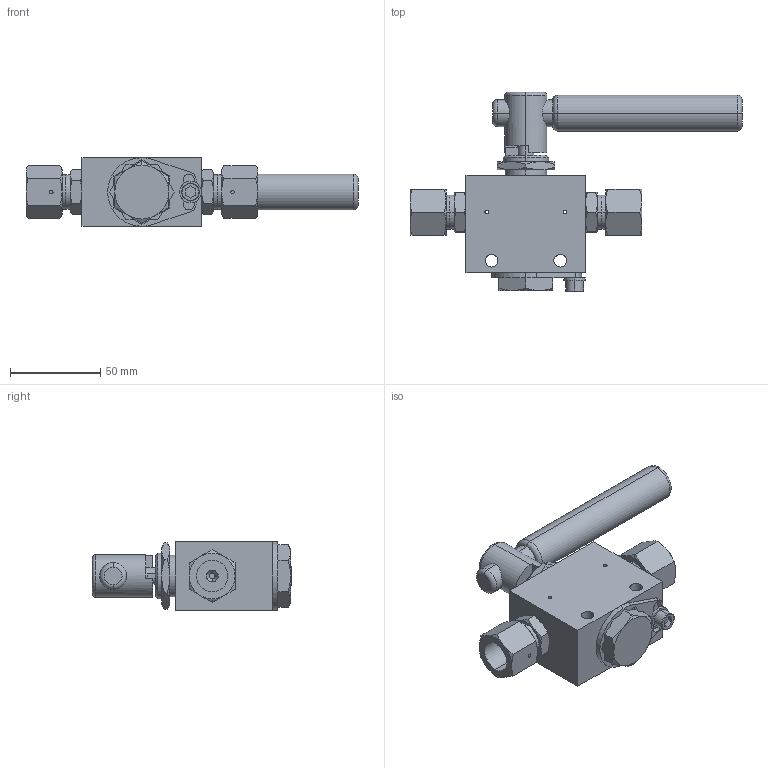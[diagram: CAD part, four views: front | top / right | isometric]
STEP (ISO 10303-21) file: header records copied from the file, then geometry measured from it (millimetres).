
FILE_DESCRIPTION (( 'STEP AP203' ), '1' );
FILE_NAME ('BV6003S06-2-(贗董蹺陛).STEP', '2025-08-27T09:20:00', ( '' ), ( '' ), 'SwSTEP 2.0', 'SolidWorks 2023', '' );
FILE_SCHEMA (( 'CONFIG_CONTROL_DESIGN' ));
Length unit declared in the file: millimetre
Products named in the file (1): BV6003S06-2-(클립추가)
Bounding box: 184.34 x 110.6 x 38 mm (x, y, z)
Volume: 220384.4 mm3; surface area: 41456.8 mm2
Topology: 1 solids, 1 shells, 276 faces, 648 edges, 390 vertices
Faces by surface type: plane 109, cone 94, cylinder 63, torus 10
Entity records: 8644 total; most frequent: CARTESIAN_POINT 2363, DIRECTION 1289, ORIENTED_EDGE 1288, EDGE_CURVE 644, AXIS2_PLACEMENT_3D 520, VERTEX_POINT 390, EDGE_LOOP 312, ADVANCED_FACE 276
